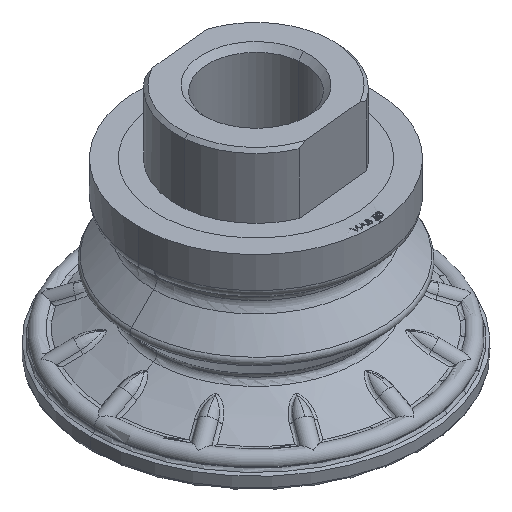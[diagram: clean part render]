
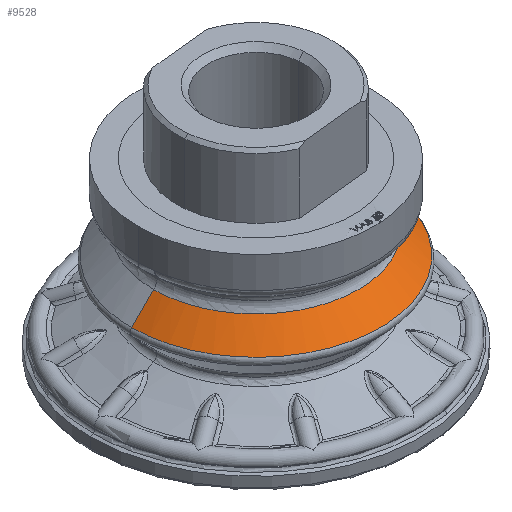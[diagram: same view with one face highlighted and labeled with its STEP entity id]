
A CAD part, isometric view. The second image highlights one B-rep face of the part: STEP entity #9528.
In plain terms, the highlighted conical face has half-angle 45 degrees and reference radius 16.086 mm.
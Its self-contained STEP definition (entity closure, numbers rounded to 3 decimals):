
#54 = CARTESIAN_POINT ( 'NONE',  ( -16.086, 0., 8.218 ) ) ;
#82 = CARTESIAN_POINT ( 'NONE',  ( 8.101, -14.056, 8.218 ) ) ;
#276 = ORIENTED_EDGE ( 'NONE', *, *, #8307, .T. ) ;
#458 = CARTESIAN_POINT ( 'NONE',  ( -19.538, 0., 4.766 ) ) ;
#751 = CARTESIAN_POINT ( 'NONE',  ( -2.557, -19.412, 4.766 ) ) ;
#779 = CARTESIAN_POINT ( 'NONE',  ( -14.056, -8.101, 8.218 ) ) ;
#812 = CARTESIAN_POINT ( 'NONE',  ( -6.295, -18.54, 4.766 ) ) ;
#873 = CARTESIAN_POINT ( 'NONE',  ( 19.538, 0., 4.766 ) ) ;
#1102 = EDGE_CURVE ( 'NONE', #6549, #8914, #9065, .T. ) ;
#1293 = DIRECTION ( 'NONE',  ( 1., 0., 0. ) ) ;
#1455 = EDGE_CURVE ( 'NONE', #5083, #8511, #11884, .T. ) ;
#1633 = CARTESIAN_POINT ( 'NONE',  ( -19.538, -1.279, 4.766 ) ) ;
#1699 = CARTESIAN_POINT ( 'NONE',  ( -11.918, -15.535, 4.766 ) ) ;
#1823 = CARTESIAN_POINT ( 'NONE',  ( -18.913, -5.066, 4.766 ) ) ;
#1912 = CARTESIAN_POINT ( 'NONE',  ( 14.056, -8.101, 8.218 ) ) ;
#2038 = B_SPLINE_CURVE_WITH_KNOTS ( 'NONE', 3,
 ( #9614, #6581, #8547, #1912, #9680, #8731, #82, #5569, #5695, #11509, #4624, #3931, #9426, #7778, #779, #3681, #7717, #12395 ),
 .UNSPECIFIED., .F., .F.,
 ( 4, 2, 2, 2, 2, 2, 2, 2, 4 ),
 ( 0., 0.125, 0.25, 0.375, 0.5, 0.625, 0.75, 0.875, 1. ),
 .UNSPECIFIED. ) ;
#2350 = CARTESIAN_POINT ( 'NONE',  ( 17.236, 0., 7.067 ) ) ;
#2700 = CARTESIAN_POINT ( 'NONE',  ( 5.066, -18.913, 4.766 ) ) ;
#3589 = CARTESIAN_POINT ( 'NONE',  ( -16.955, -9.791, 4.766 ) ) ;
#3653 = CARTESIAN_POINT ( 'NONE',  ( 9.791, -16.955, 4.766 ) ) ;
#3681 = CARTESIAN_POINT ( 'NONE',  ( -15.667, -4.21, 8.218 ) ) ;
#3716 = EDGE_LOOP ( 'NONE', ( #11271, #5443, #276, #6489 ) ) ;
#3778 = CARTESIAN_POINT ( 'NONE',  ( -12.911, -14.719, 4.766 ) ) ;
#3931 = CARTESIAN_POINT ( 'NONE',  ( -8.101, -14.056, 8.218 ) ) ;
#4624 = CARTESIAN_POINT ( 'NONE',  ( -4.21, -15.667, 8.218 ) ) ;
#5035 = CARTESIAN_POINT ( 'NONE',  ( 16.086, 0., 8.218 ) ) ;
#5083 = VERTEX_POINT ( 'NONE', #5968 ) ;
#5138 = FACE_OUTER_BOUND ( 'NONE', #3716, .T. ) ;
#5243 = AXIS2_PLACEMENT_3D ( 'NONE', #6087, #9942, #1293 ) ;
#5443 = ORIENTED_EDGE ( 'NONE', *, *, #1102, .T. ) ;
#5479 = CARTESIAN_POINT ( 'NONE',  ( 15.535, -11.918, 4.766 ) ) ;
#5540 = CARTESIAN_POINT ( 'NONE',  ( -14.719, -12.911, 4.766 ) ) ;
#5569 = CARTESIAN_POINT ( 'NONE',  ( 4.21, -15.667, 8.218 ) ) ;
#5667 = CARTESIAN_POINT ( 'NONE',  ( -15.535, -11.918, 4.766 ) ) ;
#5695 = CARTESIAN_POINT ( 'NONE',  ( 2.106, -16.086, 8.218 ) ) ;
#5968 = CARTESIAN_POINT ( 'NONE',  ( -16.086, 0., 8.218 ) ) ;
#6087 = CARTESIAN_POINT ( 'NONE',  ( 0., 0., 8.218 ) ) ;
#6244 = B_SPLINE_CURVE_WITH_KNOTS ( 'NONE', 3,
 ( #7503, #1633, #8579, #1823, #10459, #12305, #3589, #5667, #5540, #3778, #1699, #9399, #11350, #812, #8395, #751, #12426, #10275, #12486, #2700, #6493, #11289, #3653, #12240, #7434, #7624, #5479, #10341, #9583, #6553, #9522, #9341, #11478, #873 ),
 .UNSPECIFIED., .F., .F.,
 ( 4, 2, 2, 2, 2, 2, 2, 2, 2, 2, 2, 2, 2, 2, 2, 2, 4 ),
 ( 0., 0.062, 0.125, 0.187, 0.25, 0.312, 0.375, 0.437, 0.5, 0.562, 0.625, 0.688, 0.75, 0.813, 0.875, 0.938, 1. ),
 .UNSPECIFIED. ) ;
#6489 = ORIENTED_EDGE ( 'NONE', *, *, #1455, .T. ) ;
#6493 = CARTESIAN_POINT ( 'NONE',  ( 6.295, -18.54, 4.766 ) ) ;
#6549 = VERTEX_POINT ( 'NONE', #11341 ) ;
#6553 = CARTESIAN_POINT ( 'NONE',  ( 18.54, -6.295, 4.766 ) ) ;
#6581 = CARTESIAN_POINT ( 'NONE',  ( 16.086, -2.106, 8.218 ) ) ;
#6983 = CARTESIAN_POINT ( 'NONE',  ( -18.387, 0., 5.916 ) ) ;
#7434 = CARTESIAN_POINT ( 'NONE',  ( 12.911, -14.719, 4.766 ) ) ;
#7453 = CONICAL_SURFACE ( 'NONE', #5243, 16.086, 0.785 ) ;
#7503 = CARTESIAN_POINT ( 'NONE',  ( -19.538, 0., 4.766 ) ) ;
#7624 = CARTESIAN_POINT ( 'NONE',  ( 14.719, -12.911, 4.766 ) ) ;
#7717 = CARTESIAN_POINT ( 'NONE',  ( -16.086, -2.106, 8.218 ) ) ;
#7778 = CARTESIAN_POINT ( 'NONE',  ( -12.863, -9.885, 8.218 ) ) ;
#8307 = EDGE_CURVE ( 'NONE', #8914, #5083, #2038, .T. ) ;
#8395 = CARTESIAN_POINT ( 'NONE',  ( -5.066, -18.913, 4.766 ) ) ;
#8414 = CARTESIAN_POINT ( 'NONE',  ( 18.387, 0., 5.916 ) ) ;
#8511 = VERTEX_POINT ( 'NONE', #458 ) ;
#8547 = CARTESIAN_POINT ( 'NONE',  ( 15.667, -4.21, 8.218 ) ) ;
#8579 = CARTESIAN_POINT ( 'NONE',  ( -19.412, -2.557, 4.766 ) ) ;
#8731 = CARTESIAN_POINT ( 'NONE',  ( 9.885, -12.863, 8.218 ) ) ;
#8755 = EDGE_CURVE ( 'NONE', #8511, #6549, #6244, .T. ) ;
#8914 = VERTEX_POINT ( 'NONE', #5035 ) ;
#8956 = CARTESIAN_POINT ( 'NONE',  ( -17.236, 0., 7.067 ) ) ;
#9065 = B_SPLINE_CURVE_WITH_KNOTS ( 'NONE', 3,
 ( #11121, #8414, #2350, #10112 ),
 .UNSPECIFIED., .F., .F.,
 ( 4, 4 ),
 ( 0., 1. ),
 .UNSPECIFIED. ) ;
#9341 = CARTESIAN_POINT ( 'NONE',  ( 19.412, -2.557, 4.766 ) ) ;
#9399 = CARTESIAN_POINT ( 'NONE',  ( -9.791, -16.955, 4.766 ) ) ;
#9426 = CARTESIAN_POINT ( 'NONE',  ( -9.885, -12.863, 8.218 ) ) ;
#9522 = CARTESIAN_POINT ( 'NONE',  ( 18.913, -5.066, 4.766 ) ) ;
#9528 = ADVANCED_FACE ( 'NONE', ( #5138 ), #7453, .T. ) ;
#9583 = CARTESIAN_POINT ( 'NONE',  ( 17.561, -8.658, 4.766 ) ) ;
#9614 = CARTESIAN_POINT ( 'NONE',  ( 16.086, 0., 8.218 ) ) ;
#9680 = CARTESIAN_POINT ( 'NONE',  ( 12.863, -9.885, 8.218 ) ) ;
#9942 = DIRECTION ( 'NONE',  ( 0., 0., -1. ) ) ;
#10112 = CARTESIAN_POINT ( 'NONE',  ( 16.086, 0., 8.218 ) ) ;
#10275 = CARTESIAN_POINT ( 'NONE',  ( 1.279, -19.538, 4.766 ) ) ;
#10341 = CARTESIAN_POINT ( 'NONE',  ( 16.955, -9.791, 4.766 ) ) ;
#10459 = CARTESIAN_POINT ( 'NONE',  ( -18.54, -6.295, 4.766 ) ) ;
#10836 = CARTESIAN_POINT ( 'NONE',  ( -19.538, 0., 4.766 ) ) ;
#11121 = CARTESIAN_POINT ( 'NONE',  ( 19.538, 0., 4.766 ) ) ;
#11271 = ORIENTED_EDGE ( 'NONE', *, *, #8755, .T. ) ;
#11289 = CARTESIAN_POINT ( 'NONE',  ( 8.658, -17.561, 4.766 ) ) ;
#11341 = CARTESIAN_POINT ( 'NONE',  ( 19.538, 0., 4.766 ) ) ;
#11350 = CARTESIAN_POINT ( 'NONE',  ( -8.658, -17.561, 4.766 ) ) ;
#11478 = CARTESIAN_POINT ( 'NONE',  ( 19.538, -1.279, 4.766 ) ) ;
#11509 = CARTESIAN_POINT ( 'NONE',  ( -2.106, -16.086, 8.218 ) ) ;
#11884 = B_SPLINE_CURVE_WITH_KNOTS ( 'NONE', 3,
 ( #54, #8956, #6983, #10836 ),
 .UNSPECIFIED., .F., .F.,
 ( 4, 4 ),
 ( 0., 1. ),
 .UNSPECIFIED. ) ;
#12240 = CARTESIAN_POINT ( 'NONE',  ( 11.918, -15.535, 4.766 ) ) ;
#12305 = CARTESIAN_POINT ( 'NONE',  ( -17.561, -8.658, 4.766 ) ) ;
#12395 = CARTESIAN_POINT ( 'NONE',  ( -16.086, 0., 8.218 ) ) ;
#12426 = CARTESIAN_POINT ( 'NONE',  ( -1.279, -19.538, 4.766 ) ) ;
#12486 = CARTESIAN_POINT ( 'NONE',  ( 2.557, -19.412, 4.766 ) ) ;
